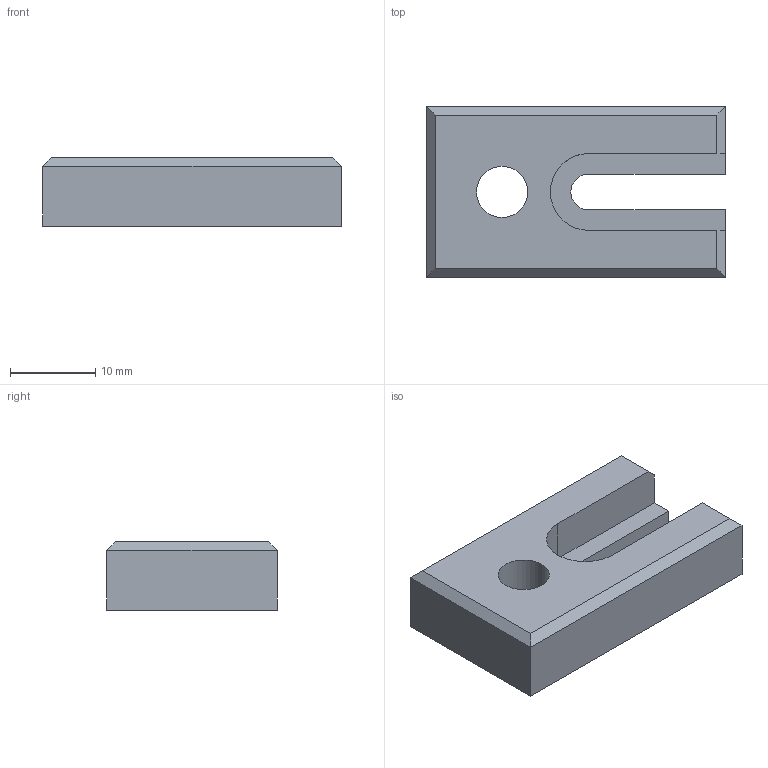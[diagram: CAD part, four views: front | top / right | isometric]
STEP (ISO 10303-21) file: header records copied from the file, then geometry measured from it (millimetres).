
FILE_DESCRIPTION(('CATIA V5 STEP Exchange'),'2;1');
FILE_NAME('G:\够快云库\系统集成开发部\1.部门成员\孙国\工装\气密检测工装\STP\轻卡悬浮阀\GZ-QKQM05_V1 阀杆定位块.stp','2021-08-26T02:51:20+00:00',('none'),('none'),'CATIA Version 5 Release 20 GA (IN-10)','CATIA V5 STEP AP214','none');
FILE_SCHEMA(('AUTOMOTIVE_DESIGN { 1 0 10303 214 1 1 1 1 }'));
Length unit declared in the file: millimetre
Products named in the file (1): 阀杆定位块
Bounding box: 35 x 20 x 8 mm (x, y, z)
Volume: 4223.2 mm3; surface area: 2453 mm2
Topology: 1 solids, 1 shells, 21 faces, 53 edges, 34 vertices
Faces by surface type: plane 17, cylinder 4
Entity records: 622 total; most frequent: CARTESIAN_POINT 110, ORIENTED_EDGE 106, DIRECTION 85, EDGE_CURVE 53, VECTOR 41, LINE 41, VERTEX_POINT 34, AXIS2_PLACEMENT_3D 27
